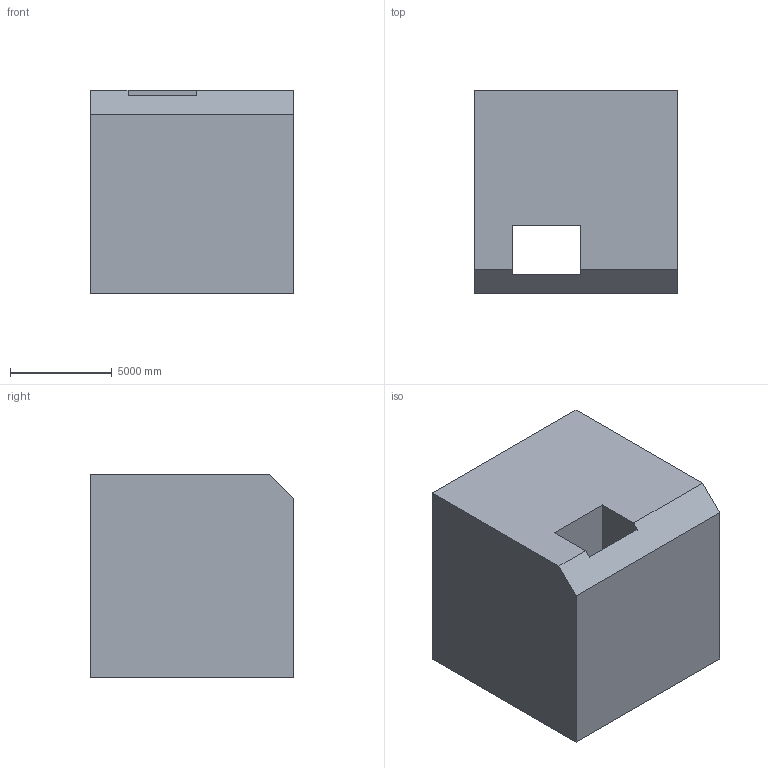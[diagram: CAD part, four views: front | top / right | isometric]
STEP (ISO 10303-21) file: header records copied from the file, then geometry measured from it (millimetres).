
FILE_DESCRIPTION (( 'STEP AP203' ), '1' );
FILE_NAME ('224.STEP', '2022-09-07T12:21:00', ( 'user' ), ( '' ), 'SwSTEP 2.0', 'SolidWorks 2021', '' );
FILE_SCHEMA (( 'CONFIG_CONTROL_DESIGN' ));
Length unit declared in the file: centimetre
Products named in the file (1): 224
Bounding box: 10000 x 10000 x 10000 mm (x, y, z)
Volume: 911970569446.9 mm3; surface area: 689560081.3 mm2
Topology: 1 solids, 1 shells, 11 faces, 30 edges, 20 vertices
Faces by surface type: plane 11
Entity records: 425 total; most frequent: CARTESIAN_POINT 62, ORIENTED_EDGE 60, DIRECTION 54, EDGE_CURVE 30, VECTOR 30, LINE 30, VERTEX_POINT 20, EDGE_LOOP 12
